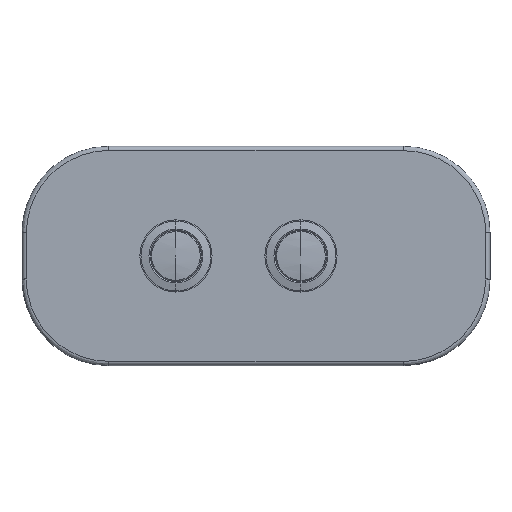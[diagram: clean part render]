
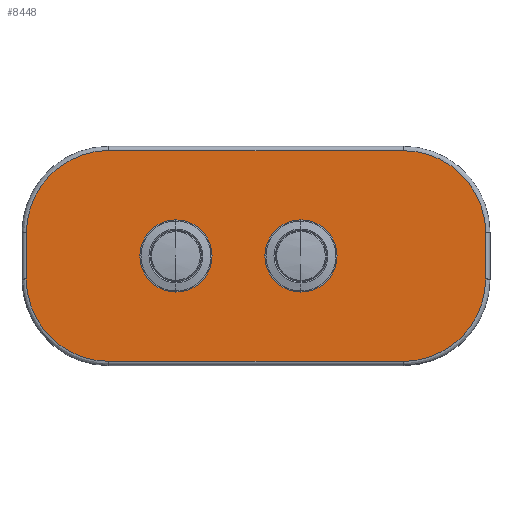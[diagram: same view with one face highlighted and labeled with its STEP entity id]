
A CAD part, top view. The second image highlights one B-rep face of the part: STEP entity #8448.
In plain terms, the highlighted planar face has unit normal (0, 0, 1).
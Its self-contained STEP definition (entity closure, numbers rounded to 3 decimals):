
#2264=DIRECTION('',(1.,0.,0.));
#2265=VECTOR('',#2264,67.2);
#2266=CARTESIAN_POINT('',(-33.6,-126.5,0.));
#2267=LINE('',#2266,#2265);
#2278=CARTESIAN_POINT('',(33.6,-78.5,0.));
#2279=CARTESIAN_POINT('',(38.514,-78.466,0.));
#2280=CARTESIAN_POINT('',(48.275,-82.575,0.));
#2281=CARTESIAN_POINT('',(52.384,-92.336,0.));
#2282=CARTESIAN_POINT('',(52.35,-97.25,0.));
#2284=CARTESIAN_POINT('',(52.35,-107.75,0.));
#2285=CARTESIAN_POINT('',(52.384,-112.664,0.));
#2286=CARTESIAN_POINT('',(48.275,-122.425,0.));
#2287=CARTESIAN_POINT('',(38.514,-126.534,0.));
#2288=CARTESIAN_POINT('',(33.6,-126.5,0.));
#2290=CARTESIAN_POINT('',(-33.6,-126.5,0.));
#2291=CARTESIAN_POINT('',(-38.514,-126.534,0.));
#2292=CARTESIAN_POINT('',(-48.275,-122.425,0.));
#2293=CARTESIAN_POINT('',(-52.384,-112.664,0.));
#2294=CARTESIAN_POINT('',(-52.35,-107.75,0.));
#2296=CARTESIAN_POINT('',(-52.35,-97.25,0.));
#2297=CARTESIAN_POINT('',(-52.384,-92.336,0.));
#2298=CARTESIAN_POINT('',(-48.275,-82.575,0.));
#2299=CARTESIAN_POINT('',(-38.514,-78.466,0.));
#2300=CARTESIAN_POINT('',(-33.6,-78.5,0.));
#2316=DIRECTION('',(0.,1.,0.));
#2317=VECTOR('',#2316,10.5);
#2318=CARTESIAN_POINT('',(52.35,-107.75,0.));
#2319=LINE('',#2318,#2317);
#2324=DIRECTION('',(-1.,0.,0.));
#2325=VECTOR('',#2324,67.2);
#2326=CARTESIAN_POINT('',(33.6,-78.5,0.));
#2327=LINE('',#2326,#2325);
#2342=DIRECTION('',(0.,-1.,0.));
#2343=VECTOR('',#2342,10.5);
#2344=CARTESIAN_POINT('',(-52.35,-97.25,0.));
#2345=LINE('',#2344,#2343);
#2363=CARTESIAN_POINT('',(-18.25,-102.5,0.));
#2364=DIRECTION('',(0.,0.,-1.));
#2365=DIRECTION('',(0.,-1.,0.));
#2366=AXIS2_PLACEMENT_3D('',#2363,#2364,#2365);
#2378=CARTESIAN_POINT('',(-18.25,-102.5,0.));
#2379=DIRECTION('',(0.,0.,-1.));
#2380=DIRECTION('',(0.,1.,0.));
#2381=AXIS2_PLACEMENT_3D('',#2378,#2379,#2380);
#2733=CARTESIAN_POINT('',(10.25,-102.5,0.));
#2734=DIRECTION('',(0.,0.,-1.));
#2735=DIRECTION('',(0.,1.,0.));
#2736=AXIS2_PLACEMENT_3D('',#2733,#2734,#2735);
#2748=CARTESIAN_POINT('',(10.25,-102.5,0.));
#2749=DIRECTION('',(0.,0.,-1.));
#2750=DIRECTION('',(0.,-1.,0.));
#2751=AXIS2_PLACEMENT_3D('',#2748,#2749,#2750);
#4499=VERTEX_POINT('',#2278);
#4500=VERTEX_POINT('',#2282);
#4501=CARTESIAN_POINT('',(52.35,-107.75,0.));
#4502=VERTEX_POINT('',#4501);
#4503=VERTEX_POINT('',#2288);
#4504=CARTESIAN_POINT('',(-33.6,-126.5,0.));
#4505=VERTEX_POINT('',#4504);
#4506=VERTEX_POINT('',#2294);
#4507=CARTESIAN_POINT('',(-52.35,-97.25,0.));
#4508=VERTEX_POINT('',#4507);
#4509=VERTEX_POINT('',#2300);
#4552=CARTESIAN_POINT('',(-18.25,-110.735,0.));
#4553=VERTEX_POINT('',#4552);
#4554=CARTESIAN_POINT('',(-18.25,-94.265,0.));
#4555=VERTEX_POINT('',#4554);
#4572=CARTESIAN_POINT('',(10.25,-110.735,0.));
#4573=VERTEX_POINT('',#4572);
#4574=CARTESIAN_POINT('',(10.25,-94.265,0.));
#4575=VERTEX_POINT('',#4574);
#8416=CARTESIAN_POINT('',(-53.431,-127.014,0.));
#8417=DIRECTION('',(0.,0.,1.));
#8418=DIRECTION('',(1.,0.,0.));
#8419=AXIS2_PLACEMENT_3D('',#8416,#8417,#8418);
#8420=PLANE('',#8419);
#8422=ORIENTED_EDGE('',*,*,#8421,.T.);
#8424=ORIENTED_EDGE('',*,*,#8423,.F.);
#8425=ORIENTED_EDGE('',*,*,#8409,.T.);
#8426=ORIENTED_EDGE('',*,*,#8381,.F.);
#8427=ORIENTED_EDGE('',*,*,#8367,.T.);
#8429=ORIENTED_EDGE('',*,*,#8428,.F.);
#8431=ORIENTED_EDGE('',*,*,#8430,.T.);
#8433=ORIENTED_EDGE('',*,*,#8432,.F.);
#8434=EDGE_LOOP('',(#8422,#8424,#8425,#8426,#8427,#8429,#8431,#8433));
#8435=FACE_OUTER_BOUND('',#8434,.F.);
#8437=ORIENTED_EDGE('',*,*,#8436,.F.);
#8439=ORIENTED_EDGE('',*,*,#8438,.F.);
#8440=EDGE_LOOP('',(#8437,#8439));
#8441=FACE_BOUND('',#8440,.F.);
#8443=ORIENTED_EDGE('',*,*,#8442,.F.);
#8445=ORIENTED_EDGE('',*,*,#8444,.F.);
#8446=EDGE_LOOP('',(#8443,#8445));
#8447=FACE_BOUND('',#8446,.F.);
#2283=B_SPLINE_CURVE_WITH_KNOTS('',3,(#2278,#2279,#2280,#2281,#2282),
.UNSPECIFIED.,.F.,.F.,(4,1,4),(0.,0.5,1.),.UNSPECIFIED.);
#2289=B_SPLINE_CURVE_WITH_KNOTS('',3,(#2284,#2285,#2286,#2287,#2288),
.UNSPECIFIED.,.F.,.F.,(4,1,4),(0.,0.5,1.),.UNSPECIFIED.);
#2295=B_SPLINE_CURVE_WITH_KNOTS('',3,(#2290,#2291,#2292,#2293,#2294),
.UNSPECIFIED.,.F.,.F.,(4,1,4),(0.,0.5,1.),.UNSPECIFIED.);
#2301=B_SPLINE_CURVE_WITH_KNOTS('',3,(#2296,#2297,#2298,#2299,#2300),
.UNSPECIFIED.,.F.,.F.,(4,1,4),(0.,0.5,1.),.UNSPECIFIED.);
#2367=CIRCLE('',#2366,8.235);
#2382=CIRCLE('',#2381,8.235);
#2737=CIRCLE('',#2736,8.235);
#2752=CIRCLE('',#2751,8.235);
#8367=EDGE_CURVE('',#4505,#4506,#2295,.T.);
#8381=EDGE_CURVE('',#4505,#4503,#2267,.T.);
#8409=EDGE_CURVE('',#4502,#4503,#2289,.T.);
#8421=EDGE_CURVE('',#4499,#4500,#2283,.T.);
#8423=EDGE_CURVE('',#4502,#4500,#2319,.T.);
#8428=EDGE_CURVE('',#4508,#4506,#2345,.T.);
#8430=EDGE_CURVE('',#4508,#4509,#2301,.T.);
#8432=EDGE_CURVE('',#4499,#4509,#2327,.T.);
#8436=EDGE_CURVE('',#4553,#4555,#2367,.T.);
#8438=EDGE_CURVE('',#4555,#4553,#2382,.T.);
#8442=EDGE_CURVE('',#4575,#4573,#2737,.T.);
#8444=EDGE_CURVE('',#4573,#4575,#2752,.T.);
#8448=ADVANCED_FACE('',(#8435,#8441,#8447),#8420,.T.);
